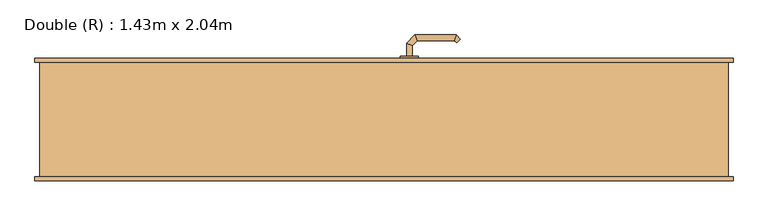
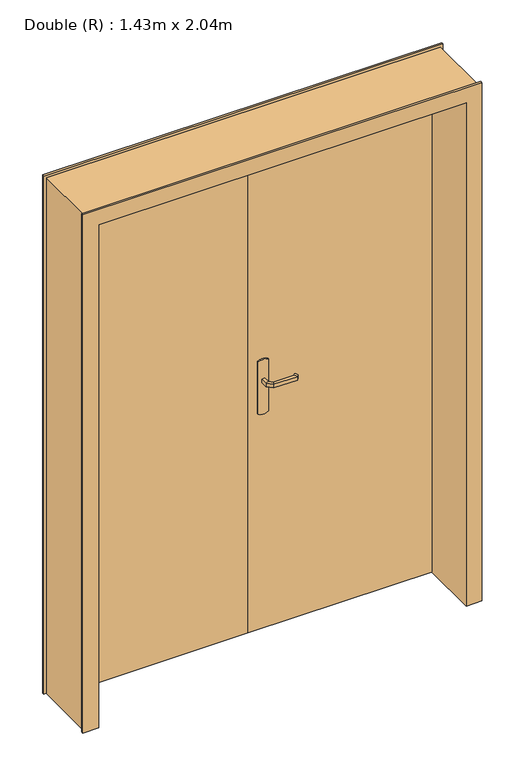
"""IFC4 building model written with IfcOpenShell, lengths in millimetres: door geometry, Double (R) : 1.43m x 2.04m."""

from ifc_helpers import new_model, si_unit, point, frame, frame_2d, origin, origin_with_axes, place, context, project, spatial, polyline, circle_curve, ellipse_curve, trimmed, segment, composite_curve, outline, extrude, faceted_brep, source, transform, mapped, element, save
from ifc_brep_helpers import plane_surface, cylinder_surface, advanced_brep


def double_r_1_43m_x_2_04m_af7c178c(model_context):
    return source(origin(), model_context, "Body", "SolidModel", [
        advanced_brep(
        [(61.0, 88.0, 993.0), (49.0, 88.0, 993.0), (49.0, 88.0, 1007.0), (61.0, 88.0, 1007.0), (61.0, 65.5147955, 1007.0), (61.0, 65.5147955, 993.0), (49.0, 60.5442327, 1007.0), (49.0, 60.5442327, 993.0), (72.4852814, 54.0295141, 1007.0), (72.4852814, 54.0295141, 993.0), (67.5147186, 42.0295141, 1007.0), (67.5147186, 42.0295141, 993.0), (152.5605023, 54.0295141, 1007.0), (152.5605023, 54.0295141, 993.0), (157.531065, 42.0295141, 1007.0), (157.531065, 42.0295141, 993.0), (157.8742108, 59.3432226, 993.0), (157.8742108, 59.3432226, 1007.0), (166.3594922, 50.8579412, 1007.0), (166.3594922, 50.8579412, 993.0)],
        [
            (0, 1, circle_curve(frame((55.0, 88.0, 1013.0457722), z_axis=(0.0, 1.0, 0.0), x_axis=(-1.0, 0.0, 0.0)), 20.9244589)),
            (1, 2),
            (2, 3, circle_curve(frame((55.0, 88.0, 986.9542278), z_axis=(0.0, 1.0, 0.0), x_axis=(-1.0, 0.0, 0.0)), 20.9244589)),
            (3, 0),
            (3, 4),
            (4, 5),
            (5, 0),
            (2, 6),
            (6, 4, ellipse_curve(frame((55.0, 63.0295141, 986.9542278), z_axis=(-0.38268343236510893, 0.9238795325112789, 0.0), x_axis=(0.9238795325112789, 0.3826834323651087, 0.0)), 22.6484711, 20.9244589)),
            (1, 7),
            (7, 6),
            (5, 7, ellipse_curve(frame((55.0, 63.0295141, 1013.0457722), z_axis=(-0.38268343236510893, 0.9238795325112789, 0.0), x_axis=(0.9238795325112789, 0.3826834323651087, 0.0)), 22.6484711, 20.9244589)),
            (4, 8),
            (8, 9),
            (9, 5),
            (6, 10),
            (10, 8, ellipse_curve(frame((70.0, 48.0295141, 986.9542278), z_axis=(-0.9238795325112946, 0.38268343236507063, 0.0), x_axis=(0.3826834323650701, 0.9238795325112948, 0.0)), 22.6484711, 20.9244589)),
            (7, 11),
            (11, 10),
            (9, 11, ellipse_curve(frame((70.0, 48.0295141, 1013.0457722), z_axis=(-0.9238795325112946, 0.38268343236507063, 0.0), x_axis=(0.3826834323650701, 0.9238795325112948, 0.0)), 22.6484711, 20.9244589)),
            (8, 12),
            (12, 13),
            (13, 9),
            (10, 14),
            (14, 12, ellipse_curve(frame((155.0457837, 48.0295141, 986.9542278), z_axis=(-0.9238795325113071, -0.38268343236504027, 0.0), x_axis=(-0.38268343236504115, 0.9238795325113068, 0.0)), 22.6484711, 20.9244589)),
            (11, 15),
            (15, 14),
            (13, 15, ellipse_curve(frame((155.0457837, 48.0295141, 1013.0457722), z_axis=(-0.9238795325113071, -0.38268343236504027, 0.0), x_axis=(-0.38268343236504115, 0.9238795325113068, 0.0)), 22.6484711, 20.9244589)),
            (16, 17),
            (17, 18, circle_curve(frame((162.1168515, 55.1005819, 986.9542278), z_axis=(0.7071067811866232, 0.7071067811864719, 0.0), x_axis=(0.7071067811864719, -0.7071067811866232, 0.0)), 20.9244589)),
            (18, 19),
            (19, 16, circle_curve(frame((162.1168515, 55.1005819, 1013.0457722), z_axis=(0.7071067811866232, 0.7071067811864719, 0.0), x_axis=(0.7071067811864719, -0.7071067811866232, 0.0)), 20.9244589)),
            (12, 17),
            (16, 13),
            (14, 18),
            (15, 19),
        ],
        [
            plane_surface(frame((45.7804555, 88.0, 1000.0), z_axis=(0.0, 1.0, 0.0), x_axis=(0.0, 0.0, 1.0))),
            plane_surface(frame((61.0, 88.0, 993.0), z_axis=(1.0, 0.0, 0.0), x_axis=(0.0, -1.0, 0.0))),
            cylinder_surface(frame((55.0, 88.0, 986.9542278), z_axis=(0.0, 1.0, 0.0), x_axis=(-1.0, 0.0, 0.0)), 20.9244589),
            plane_surface(frame((49.0, 88.0, 1007.0), z_axis=(-1.0, 0.0, 0.0), x_axis=(0.0, -1.0, 0.0))),
            cylinder_surface(frame((55.0, 88.0, 1013.0457722), z_axis=(0.0, 1.0, 0.0), x_axis=(-1.0, 0.0, 0.0)), 20.9244589),
            plane_surface(frame((61.0, 65.5147955, 993.0), z_axis=(0.707106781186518, 0.707106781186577, 0.0), x_axis=(0.707106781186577, -0.707106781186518, 0.0))),
            cylinder_surface(frame((55.0, 63.0295141, 986.9542278), z_axis=(-0.7071067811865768, 0.7071067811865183, 0.0), x_axis=(-0.7071067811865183, -0.7071067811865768, 0.0)), 20.9244589),
            plane_surface(frame((49.0, 60.5442327, 1007.0), z_axis=(-0.7071067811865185, -0.7071067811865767, 0.0), x_axis=(0.7071067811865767, -0.7071067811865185, 0.0))),
            cylinder_surface(frame((55.0, 63.0295141, 1013.0457722), z_axis=(-0.7071067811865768, 0.7071067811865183, 0.0), x_axis=(-0.7071067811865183, -0.7071067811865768, 0.0)), 20.9244589),
            plane_surface(frame((72.4852814, 54.0295141, 993.0), z_axis=(0.0, 1.0, 0.0), x_axis=(1.0, 0.0, 0.0))),
            cylinder_surface(frame((70.0, 48.0295141, 986.9542278), z_axis=(-1.0, 0.0, 0.0), x_axis=(0.0, -1.0, 0.0)), 20.9244589),
            plane_surface(frame((67.5147186, 42.0295141, 1007.0), z_axis=(0.0, -1.0, 0.0), x_axis=(1.0, 0.0, 0.0))),
            cylinder_surface(frame((70.0, 48.0295141, 1013.0457722), z_axis=(-1.0, 0.0, 0.0), x_axis=(0.0, -1.0, 0.0)), 20.9244589),
            plane_surface(frame((162.1168515, 55.1005819, 990.7804555), z_axis=(0.7071067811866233, 0.7071067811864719, 0.0), x_axis=(0.7071067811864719, -0.7071067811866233, 0.0))),
            plane_surface(frame((152.5605023, 54.0295141, 993.0), z_axis=(-0.707106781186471, 0.7071067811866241, 0.0), x_axis=(0.7071067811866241, 0.707106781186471, 0.0))),
            cylinder_surface(frame((155.0457837, 48.0295141, 986.9542278), z_axis=(-0.7071067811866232, -0.7071067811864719, 0.0), x_axis=(0.7071067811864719, -0.7071067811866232, 0.0)), 20.9244589),
            plane_surface(frame((157.531065, 42.0295141, 1007.0), z_axis=(0.7071067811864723, -0.7071067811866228, 0.0), x_axis=(0.7071067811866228, 0.7071067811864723, 0.0))),
            cylinder_surface(frame((155.0457837, 48.0295141, 1013.0457722), z_axis=(-0.7071067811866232, -0.7071067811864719, 0.0), x_axis=(0.7071067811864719, -0.7071067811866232, 0.0)), 20.9244589),
        ],
        [
            (0, [[1, 2, 3, 4]]),
            (1, [[5, 6, 7, -4]]),
            (2, [[8, 9, -5, -3]]),
            (3, [[10, 11, -8, -2]]),
            (4, [[-7, 12, -10, -1]]),
            (5, [[13, 14, 15, -6]]),
            (6, [[16, 17, -13, -9]]),
            (7, [[18, 19, -16, -11]]),
            (8, [[-15, 20, -18, -12]]),
            (9, [[21, 22, 23, -14]]),
            (10, [[24, 25, -21, -17]]),
            (11, [[26, 27, -24, -19]]),
            (12, [[-23, 28, -26, -20]]),
            (13, [[29, 30, 31, 32]]),
            (14, [[33, -29, 34, -22]]),
            (15, [[35, -30, -33, -25]]),
            (16, [[36, -31, -35, -27]]),
            (17, [[-34, -32, -36, -28]]),
        ],
    ),
        advanced_brep(
        [(49.0, 138.0, 1007.0), (49.0, 138.0, 993.0), (61.0, 138.0, 993.0), (61.0, 138.0, 1007.0), (61.0, 160.680388, 1007.0), (49.0, 165.6509507, 1007.0), (61.0, 160.680388, 993.0), (49.0, 165.6509507, 993.0), (72.3477727, 172.0281607, 1007.0), (67.37721, 184.0281607, 1007.0), (72.3477727, 172.0281607, 993.0), (67.37721, 184.0281607, 993.0), (152.5333592, 172.0281607, 1007.0), (157.503922, 184.0281607, 1007.0), (152.5333592, 172.0281607, 993.0), (157.503922, 184.0281607, 993.0), (166.3323491, 175.1997336, 1007.0), (157.8470677, 166.7144522, 1007.0), (157.8470677, 166.7144522, 993.0), (166.3323491, 175.1997336, 993.0)],
        [
            (0, 1),
            (1, 2, circle_curve(frame((55.0, 138.0, 1013.0457722), z_axis=(0.0, -1.0, 0.0), x_axis=(1.0, 0.0, 0.0)), 20.9244589)),
            (2, 3),
            (3, 0, circle_curve(frame((55.0, 138.0, 986.9542278), z_axis=(0.0, -1.0, 0.0), x_axis=(1.0, 0.0, 0.0)), 20.9244589)),
            (3, 4),
            (4, 5, ellipse_curve(frame((55.0, 163.1656693, 986.9542278), z_axis=(-0.3826834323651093, -0.9238795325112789, 0.0), x_axis=(0.9238795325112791, -0.38268343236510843, 0.0)), 22.6484711, 20.9244589)),
            (5, 0),
            (2, 6),
            (6, 4),
            (1, 7),
            (7, 6, ellipse_curve(frame((55.0, 163.1656693, 1013.0457722), z_axis=(-0.3826834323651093, -0.9238795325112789, 0.0), x_axis=(0.9238795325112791, -0.38268343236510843, 0.0)), 22.6484711, 20.9244589)),
            (5, 7),
            (4, 8),
            (8, 9, ellipse_curve(frame((69.8624914, 178.0281607, 986.9542278), z_axis=(-0.9238795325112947, -0.38268343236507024, 0.0), x_axis=(0.3826834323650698, -0.9238795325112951, 0.0)), 22.6484711, 20.9244589)),
            (9, 5),
            (6, 10),
            (10, 8),
            (7, 11),
            (11, 10, ellipse_curve(frame((69.8624914, 178.0281607, 1013.0457722), z_axis=(-0.9238795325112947, -0.38268343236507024, 0.0), x_axis=(0.3826834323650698, -0.9238795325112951, 0.0)), 22.6484711, 20.9244589)),
            (9, 11),
            (8, 12),
            (12, 13, ellipse_curve(frame((155.0186406, 178.0281607, 986.9542278), z_axis=(-0.9238795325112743, 0.3826834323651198, 0.0), x_axis=(-0.38268343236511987, -0.9238795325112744, 0.0)), 22.6484711, 20.9244589)),
            (13, 9),
            (10, 14),
            (14, 12),
            (11, 15),
            (15, 14, ellipse_curve(frame((155.0186406, 178.0281607, 1013.0457722), z_axis=(-0.9238795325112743, 0.3826834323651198, 0.0), x_axis=(-0.38268343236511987, -0.9238795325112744, 0.0)), 22.6484711, 20.9244589)),
            (13, 15),
            (16, 17, circle_curve(frame((162.0897084, 170.9570929, 986.9542278), z_axis=(0.7071067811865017, -0.7071067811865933, 0.0), x_axis=(-0.7071067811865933, -0.7071067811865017, 0.0)), 20.9244589)),
            (17, 18),
            (18, 19, circle_curve(frame((162.0897084, 170.9570929, 1013.0457722), z_axis=(0.7071067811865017, -0.7071067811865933, 0.0), x_axis=(-0.7071067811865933, -0.7071067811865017, 0.0)), 20.9244589)),
            (19, 16),
            (12, 17),
            (16, 13),
            (14, 18),
            (15, 19),
        ],
        [
            plane_surface(frame((45.7804555, 138.0, 1000.0), z_axis=(0.0, -1.0, 0.0), x_axis=(0.0, 0.0, -1.0))),
            cylinder_surface(frame((55.0, 138.0, 986.9542278), z_axis=(0.0, -1.0, 0.0), x_axis=(1.0, 0.0, 0.0)), 20.9244589),
            plane_surface(frame((61.0, 138.0, 1007.0), z_axis=(1.0, 0.0, 0.0), x_axis=(0.0, 1.0, 0.0))),
            cylinder_surface(frame((55.0, 138.0, 1013.0457722), z_axis=(0.0, -1.0, 0.0), x_axis=(1.0, 0.0, 0.0)), 20.9244589),
            plane_surface(frame((49.0, 138.0, 993.0), z_axis=(-1.0, 0.0, 0.0), x_axis=(0.0, 1.0, 0.0))),
            cylinder_surface(frame((55.0, 163.1656693, 986.9542278), z_axis=(-0.7071067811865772, -0.7071067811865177, 0.0), x_axis=(0.7071067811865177, -0.7071067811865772, 0.0)), 20.9244589),
            plane_surface(frame((61.0, 160.680388, 1007.0), z_axis=(0.7071067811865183, -0.7071067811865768, 0.0), x_axis=(0.7071067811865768, 0.7071067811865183, 0.0))),
            cylinder_surface(frame((55.0, 163.1656693, 1013.0457722), z_axis=(-0.7071067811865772, -0.7071067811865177, 0.0), x_axis=(0.7071067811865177, -0.7071067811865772, 0.0)), 20.9244589),
            plane_surface(frame((49.0, 165.6509507, 993.0), z_axis=(-0.707106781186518, 0.707106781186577, 0.0), x_axis=(0.707106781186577, 0.707106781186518, 0.0))),
            cylinder_surface(frame((69.8624914, 178.0281607, 986.9542278), z_axis=(-1.0, 0.0, 0.0), x_axis=(0.0, -1.0, 0.0)), 20.9244589),
            plane_surface(frame((72.3477727, 172.0281607, 1007.0), z_axis=(0.0, -1.0, 0.0), x_axis=(1.0, 0.0, 0.0))),
            cylinder_surface(frame((69.8624914, 178.0281607, 1013.0457722), z_axis=(-1.0, 0.0, 0.0), x_axis=(0.0, -1.0, 0.0)), 20.9244589),
            plane_surface(frame((67.37721, 184.0281607, 993.0), z_axis=(0.0, 1.0, 0.0), x_axis=(1.0, 0.0, 0.0))),
            plane_surface(frame((162.0897084, 170.9570929, 1009.2195445), z_axis=(0.7071067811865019, -0.7071067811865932, 0.0), x_axis=(0.7071067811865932, 0.7071067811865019, 0.0))),
            cylinder_surface(frame((155.0186406, 178.0281607, 986.9542278), z_axis=(-0.7071067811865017, 0.7071067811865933, 0.0), x_axis=(-0.7071067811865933, -0.7071067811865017, 0.0)), 20.9244589),
            plane_surface(frame((152.5333592, 172.0281607, 1007.0), z_axis=(-0.7071067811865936, -0.7071067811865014, 0.0), x_axis=(0.7071067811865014, -0.7071067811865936, 0.0))),
            cylinder_surface(frame((155.0186406, 178.0281607, 1013.0457722), z_axis=(-0.7071067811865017, 0.7071067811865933, 0.0), x_axis=(-0.7071067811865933, -0.7071067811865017, 0.0)), 20.9244589),
            plane_surface(frame((157.503922, 184.0281607, 993.0), z_axis=(0.707106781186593, 0.7071067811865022, 0.0), x_axis=(0.7071067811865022, -0.707106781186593, 0.0))),
        ],
        [
            (0, [[1, 2, 3, 4]]),
            (1, [[5, 6, 7, -4]]),
            (2, [[8, 9, -5, -3]]),
            (3, [[10, 11, -8, -2]]),
            (4, [[-7, 12, -10, -1]]),
            (5, [[13, 14, 15, -6]]),
            (6, [[16, 17, -13, -9]]),
            (7, [[18, 19, -16, -11]]),
            (8, [[-15, 20, -18, -12]]),
            (9, [[21, 22, 23, -14]]),
            (10, [[24, 25, -21, -17]]),
            (11, [[26, 27, -24, -19]]),
            (12, [[-23, 28, -26, -20]]),
            (13, [[29, 30, 31, 32]]),
            (14, [[33, -29, 34, -22]]),
            (15, [[35, -30, -33, -25]]),
            (16, [[36, -31, -35, -27]]),
            (17, [[-34, -32, -36, -28]]),
        ],
    ),
        extrude(outline(composite_curve([segment(trimmed(circle_curve(frame_2d((1045.3589838, 55.0)), 40.0), [point((1080.0, 75.0))], [point((1080.0, 35.0))], False, "CARTESIAN"), True, "CONTINUOUS"), segment(polyline([(1080.0, 35.0), (870.0, 35.0)]), True, "CONTINUOUS"), segment(trimmed(circle_curve(frame_2d((904.6410162, 55.0)), 40.0), [point((870.0, 35.0))], [point((870.0, 75.0))], False, "CARTESIAN"), True, "CONTINUOUS"), segment(polyline([(870.0, 75.0), (1080.0, 75.0)]), True, "CONTINUOUS")], self_intersect=False)), frame((0.0, 88.0, 0.0), z_axis=(0.0, 1.0, 0.0), x_axis=(0.0, 0.0, 1.0)), (0.0, 0.0, 1.0), 5.0),
        extrude(outline(composite_curve([segment(trimmed(circle_curve(frame_2d((904.6410162, 55.0)), 40.0), [point((870.0, 35.0))], [point((870.0, 75.0))], False, "CARTESIAN"), True, "CONTINUOUS"), segment(polyline([(870.0, 75.0), (1080.0, 75.0)]), True, "CONTINUOUS"), segment(trimmed(circle_curve(frame_2d((1045.3589838, 55.0)), 40.0), [point((1080.0, 75.0))], [point((1080.0, 35.0))], False, "CARTESIAN"), True, "CONTINUOUS"), segment(polyline([(1080.0, 35.0), (870.0, 35.0)]), True, "CONTINUOUS")], self_intersect=False)), frame((0.0, 133.0, 0.0), z_axis=(0.0, 1.0, 0.0), x_axis=(0.0, 0.0, 1.0)), (0.0, 0.0, 1.0), 5.0),
        faceted_brep([(-750.0, 125.0, 0.0), (-760.0, 125.0, 0.0), (-760.0, 133.0, 0.0), (-715.0, 133.0, 0.0), (-715.0, 93.0, 0.0), (-700.0, 93.0, 0.0), (-700.0, -133.0, 0.0), (-760.0, -133.0, 0.0), (-760.0, -125.0, 0.0), (-750.0, -125.0, 0.0), (-750.0, -125.0, 2075.0), (-750.0, 125.0, 2075.0), (-760.0, -125.0, 2085.0), (760.0, -125.0, 2085.0), (760.0, -125.0, 0.0), (750.0, -125.0, 0.0), (750.0, -125.0, 2075.0), (-760.0, -133.0, 2085.0), (-700.0, -133.0, 2025.0), (700.0, -133.0, 2025.0), (700.0, -133.0, 0.0), (760.0, -133.0, 0.0), (760.0, -133.0, 2085.0), (-700.0, 93.0, 2025.0), (-715.0, 93.0, 2040.0), (715.0, 93.0, 2040.0), (715.0, 93.0, 0.0), (700.0, 93.0, 0.0), (700.0, 93.0, 2025.0), (-715.0, 133.0, 2040.0), (-760.0, 133.0, 2085.0), (760.0, 133.0, 2085.0), (760.0, 133.0, 0.0), (715.0, 133.0, 0.0), (715.0, 133.0, 2040.0), (-760.0, 125.0, 2085.0), (750.0, 125.0, 2075.0), (750.0, 125.0, 0.0), (760.0, 125.0, 0.0), (760.0, 125.0, 2085.0)], [[[0, 1, 2, 3, 4, 5, 6, 7, 8, 9]], [[9, 10, 11, 0]], [[8, 12, 13, 14, 15, 16, 10, 9]], [[7, 17, 12, 8]], [[6, 18, 19, 20, 21, 22, 17, 7]], [[5, 23, 18, 6]], [[4, 24, 25, 26, 27, 28, 23, 5]], [[3, 29, 24, 4]], [[2, 30, 31, 32, 33, 34, 29, 3]], [[1, 35, 30, 2]], [[0, 11, 36, 37, 38, 39, 35, 1]], [[16, 15, 37, 36]], [[37, 15, 14, 21, 20, 27, 26, 33, 32, 38]], [[22, 21, 14, 13]], [[28, 27, 20, 19]], [[34, 33, 26, 25]], [[39, 38, 32, 31]], [[10, 16, 36, 11]], [[17, 22, 13, 12]], [[23, 28, 19, 18]], [[29, 34, 25, 24]], [[35, 39, 31, 30]]]),
        extrude(outline(polyline([(715.0, 133.0), (715.0, 93.0), (0.0, 93.0), (0.0, 133.0), (715.0, 133.0)])), origin_with_axes(), (0.0, 0.0, 1.0), 2040.0),
        extrude(outline(polyline([(0.0, 133.0), (0.0, 93.0), (-715.0, 93.0), (-715.0, 133.0), (0.0, 133.0)])), origin_with_axes(), (0.0, 0.0, 1.0), 2040.0),
    ])


if __name__ == "__main__":
    model = new_model("IFC4")
    model_context = context("Model", 3, world=origin())
    ifc_project = project(units=[si_unit("LENGTHUNIT", "METRE", prefix="MILLI")], contexts=[model_context])
    site = spatial("IfcSite", under=ifc_project)
    building = spatial("IfcBuilding", under=site)
    placement = place(None, origin())
    double_r_1_43m_x_2_04m_shape = double_r_1_43m_x_2_04m_af7c178c(model_context)
    element("IfcDoor", 1, ObjectType="Double (R) : 1.43m x 2.04m", at=placement, inside=building, context=model_context, shape_type="MappedRepresentation", body=[
        mapped(double_r_1_43m_x_2_04m_shape, transform((0.0, 0.0, 0.0), x_axis=(1.0, 0.0, 0.0), y_axis=(0.0, 1.0, 0.0), z_axis=(0.0, 0.0, 1.0))),
    ])
    save(model, "model.ifc")
